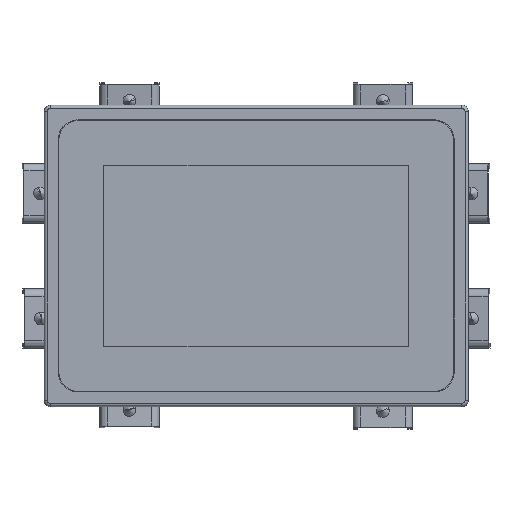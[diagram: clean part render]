
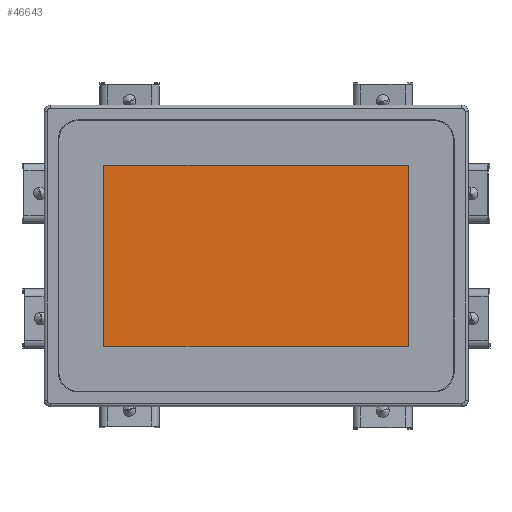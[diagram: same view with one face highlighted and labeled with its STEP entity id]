
A CAD part, top view. The second image highlights one B-rep face of the part: STEP entity #46643.
In plain terms, the highlighted planar face has unit normal (0, 0, 1).
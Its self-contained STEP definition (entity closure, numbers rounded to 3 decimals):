
#537 = CARTESIAN_POINT ( 'NONE',  ( -47.52, 28.23, 1. ) ) ;
#1114 = ORIENTED_EDGE ( 'NONE', *, *, #1505, .F. ) ;
#1505 = EDGE_CURVE ( 'NONE', #47802, #32422, #45678, .T. ) ;
#6216 = CARTESIAN_POINT ( 'NONE',  ( -47.52, 28.23, 1. ) ) ;
#7792 = DIRECTION ( 'NONE',  ( 0., 1., 0. ) ) ;
#8303 = DIRECTION ( 'NONE',  ( 0., -1., 0. ) ) ;
#8324 = CARTESIAN_POINT ( 'NONE',  ( 0., 0., 1. ) ) ;
#9632 = AXIS2_PLACEMENT_3D ( 'NONE', #8324, #41953, #38035 ) ;
#10263 = VERTEX_POINT ( 'NONE', #40910 ) ;
#10570 = ORIENTED_EDGE ( 'NONE', *, *, #47314, .F. ) ;
#11637 = CARTESIAN_POINT ( 'NONE',  ( 47.52, -28.23, 1. ) ) ;
#13357 = DIRECTION ( 'NONE',  ( 1., 0., 0. ) ) ;
#14109 = VECTOR ( 'NONE', #43814, 1000. ) ;
#17805 = ORIENTED_EDGE ( 'NONE', *, *, #36270, .F. ) ;
#21218 = VECTOR ( 'NONE', #7792, 1000. ) ;
#22926 = EDGE_LOOP ( 'NONE', ( #17805, #39317, #1114, #10570 ) ) ;
#32229 = CARTESIAN_POINT ( 'NONE',  ( -47.52, -28.23, 1. ) ) ;
#32422 = VERTEX_POINT ( 'NONE', #11637 ) ;
#32843 = EDGE_CURVE ( 'NONE', #32422, #10263, #41070, .T. ) ;
#33567 = LINE ( 'NONE', #537, #21218 ) ;
#33862 = FACE_OUTER_BOUND ( 'NONE', #22926, .T. ) ;
#34571 = VECTOR ( 'NONE', #13357, 1000. ) ;
#34598 = PLANE ( 'NONE',  #9632 ) ;
#35562 = CARTESIAN_POINT ( 'NONE',  ( 47.52, 28.23, 1. ) ) ;
#36270 = EDGE_CURVE ( 'NONE', #10263, #39145, #33567, .T. ) ;
#37861 = CARTESIAN_POINT ( 'NONE',  ( 47.52, 28.23, 1. ) ) ;
#38035 = DIRECTION ( 'NONE',  ( 1., 0., 0. ) ) ;
#39145 = VERTEX_POINT ( 'NONE', #45997 ) ;
#39317 = ORIENTED_EDGE ( 'NONE', *, *, #32843, .F. ) ;
#40910 = CARTESIAN_POINT ( 'NONE',  ( -47.52, -28.23, 1. ) ) ;
#41070 = LINE ( 'NONE', #32229, #14109 ) ;
#41953 = DIRECTION ( 'NONE',  ( 0., 0., 1. ) ) ;
#43814 = DIRECTION ( 'NONE',  ( -1., 0., 0. ) ) ;
#43958 = VECTOR ( 'NONE', #8303, 1000. ) ;
#44522 = LINE ( 'NONE', #6216, #34571 ) ;
#45678 = LINE ( 'NONE', #37861, #43958 ) ;
#45997 = CARTESIAN_POINT ( 'NONE',  ( -47.52, 28.23, 1. ) ) ;
#46643 = ADVANCED_FACE ( 'N', ( #33862 ), #34598, .T. ) ;
#47314 = EDGE_CURVE ( 'NONE', #39145, #47802, #44522, .T. ) ;
#47802 = VERTEX_POINT ( 'NONE', #35562 ) ;
